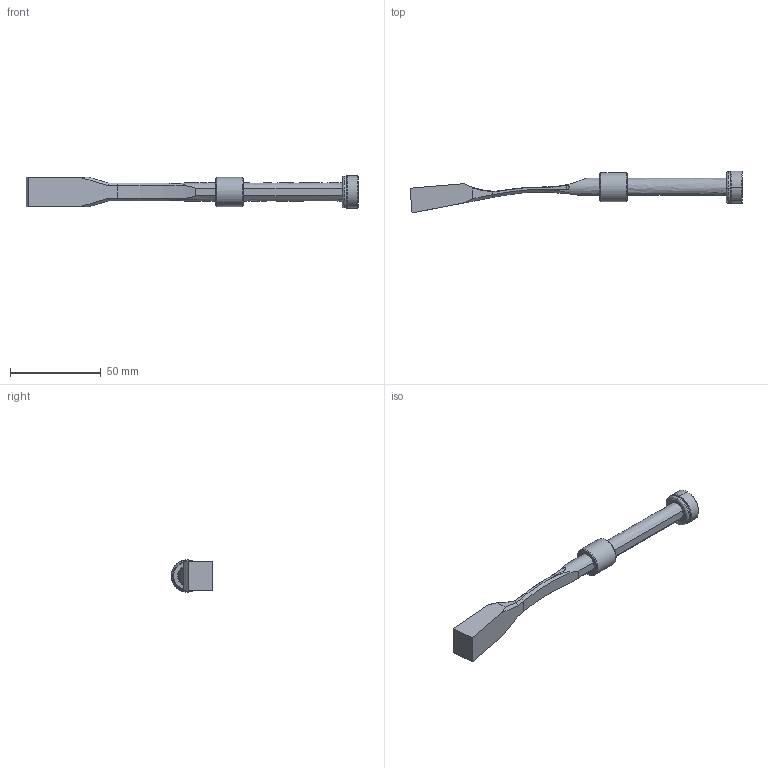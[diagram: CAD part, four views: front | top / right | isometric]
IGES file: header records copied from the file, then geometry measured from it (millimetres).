
Start section: START RECORD GO HERE.
Global section: file name: pw101630_ejection.igs; native system: DASSAULT SYSTEMES CATIA V5 R20 - www.3ds.com; preprocessor: CATIA Version 5 Release 20 ; author: Utente; organization: NB04-ASUS; date: 20201108.141052; units: millimetre
Bounding box: 182.5 x 22.96 x 17.8 mm (x, y, z)
Surface area: 10386.6 mm2 (no closed solid volume)
Topology: 0 solids, 0 shells, 110 faces, 496 edges, 492 vertices
Faces by surface type: revolution 70, plane 38, bspline 2
